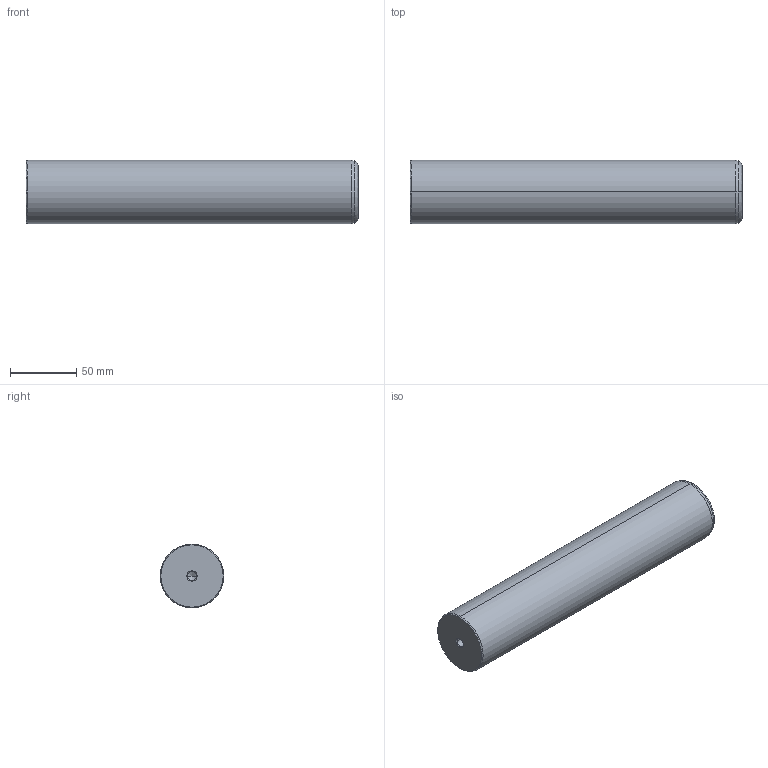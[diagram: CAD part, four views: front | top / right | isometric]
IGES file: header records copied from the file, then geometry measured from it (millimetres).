
Start section: START RECORD GO HERE.
Global section: file name: 720-48x250.igs; native system: DASSAULT SYSTEMES CATIA V5 R20 - www.3ds.com; preprocessor: CATIA Version 5 Release 20 ; author: Utente; organization: NB04-ASUS; date: 20201230.225053; units: millimetre
Bounding box: 250 x 48 x 48 mm (x, y, z)
Surface area: 41926.5 mm2 (no closed solid volume)
Topology: 0 solids, 0 shells, 22 faces, 108 edges, 104 vertices
Faces by surface type: revolution 20, plane 2
